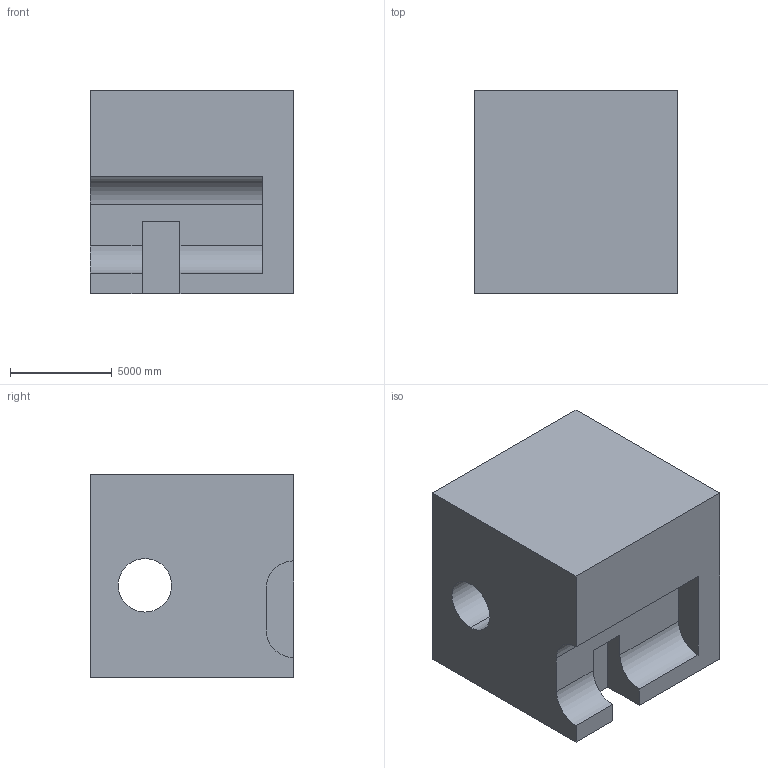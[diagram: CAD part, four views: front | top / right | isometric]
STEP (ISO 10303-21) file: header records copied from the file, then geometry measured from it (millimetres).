
FILE_DESCRIPTION (( 'STEP AP203' ), '1' );
FILE_NAME ('1245.STEP', '2022-08-18T13:22:08', ( 'user' ), ( '' ), 'SwSTEP 2.0', 'SolidWorks 2021', '' );
FILE_SCHEMA (( 'CONFIG_CONTROL_DESIGN' ));
Length unit declared in the file: centimetre
Products named in the file (1): 1245
Bounding box: 10000 x 10000 x 10000 mm (x, y, z)
Volume: 888922562508.3 mm3; surface area: 690340793.1 mm2
Topology: 1 solids, 1 shells, 18 faces, 48 edges, 32 vertices
Faces by surface type: plane 13, cylinder 5
Entity records: 643 total; most frequent: CARTESIAN_POINT 99, DIRECTION 96, ORIENTED_EDGE 96, EDGE_CURVE 48, LINE 38, VECTOR 38, VERTEX_POINT 32, AXIS2_PLACEMENT_3D 29
